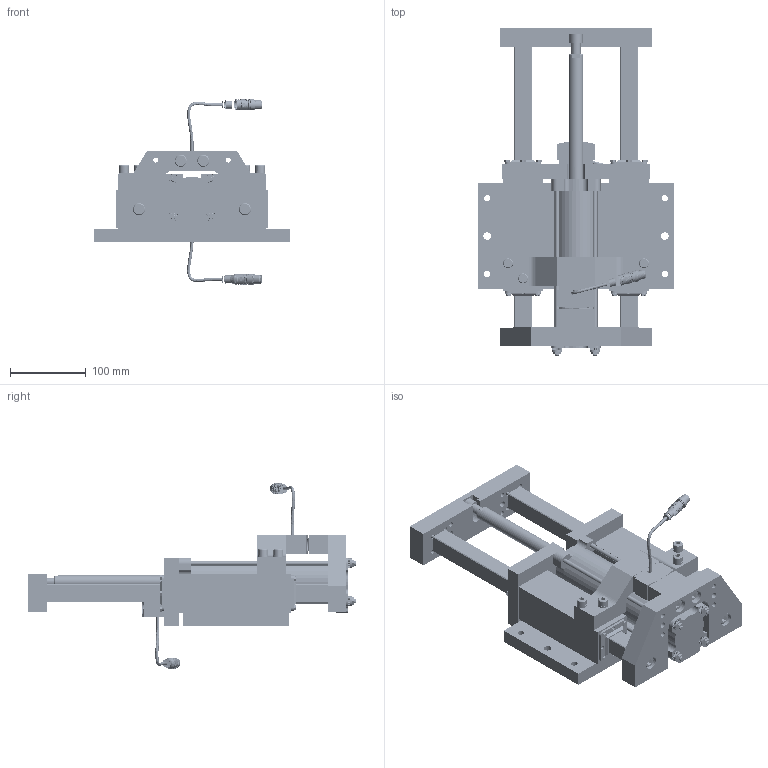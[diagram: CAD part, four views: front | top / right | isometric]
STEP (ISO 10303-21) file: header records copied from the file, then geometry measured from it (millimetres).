
FILE_DESCRIPTION(/* description */ (''),/* implementation_level */ '2;1');
FILE_NAME(/* name */ 'C:\Vault Workspace\CAD\Welker\Shot Pin\DBL24\STANDARD\DB2125B01XP1XXX0000-EXT.stp',/* time_stamp */ '2018-03-26T08:02:02-04:00',/* author */ ('KLabrecque'),/* organization */ (''),/* preprocessor_version */ 'ST-DEVELOPER v17',/* originating_system */ 'Autodesk Inventor 2018',/* authorisation */ '');
FILE_SCHEMA (('AUTOMOTIVE_DESIGN { 1 0 10303 214 3 1 1 }'));
Products named in the file (1): DB2L01_Shrinkwrap_1
Bounding box: 260 x 433.46 x 246.1 mm (x, y, z)
Volume: 3191100.7 mm3; surface area: 765842.1 mm2
Topology: 119 solids, 119 shells, 5467 faces, 14498 edges, 9621 vertices
Faces by surface type: plane 3158, cylinder 1201, bspline 566, cone 519, torus 23
Full cylindrical faces by diameter (mm): 2.5 x1, 3.175 x6, 3.734 x16, 4.064 x2, 4.166 x16, 4.2 x2, 4.763 x32, 4.917 x12, 5.359 x8, 6 x12, 6.35 x2, 6.5 x30, 6.563 x16, 6.63 x2, 6.647 x8, 7.95 x4, 8 x34, 8.13 x2, 8.334 x12, 8.376 x14, 8.5 x16, 8.7 x16, 9.728 x3, 10 x20, 10.211 x2, 10.287 x2, 10.35 x18, 10.494 x2, 10.5 x10, 10.7 x4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
Entity records: 198063 total; most frequent: CARTESIAN_POINT 62024, ORIENTED_EDGE 28880, DIRECTION 24334, EDGE_CURVE 14440, VERTEX_POINT 9621, AXIS2_PLACEMENT_3D 8742, LINE 6850, VECTOR 6850
